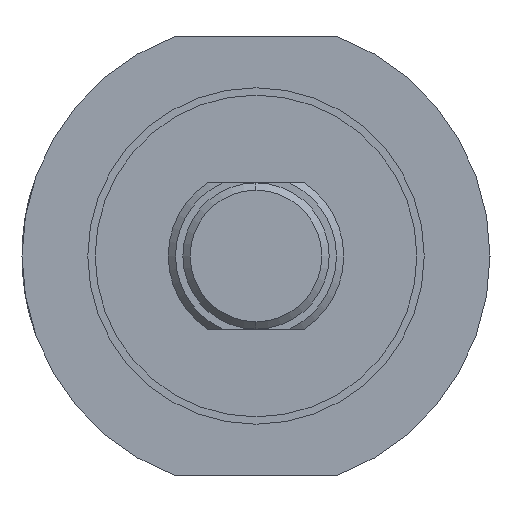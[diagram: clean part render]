
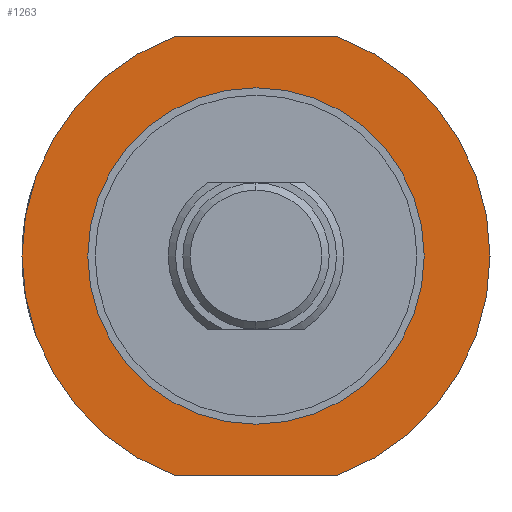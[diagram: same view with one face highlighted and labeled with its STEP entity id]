
A CAD part, left-side view. The second image highlights one B-rep face of the part: STEP entity #1263.
In plain terms, the highlighted planar face has unit normal (-1, 0, 0).
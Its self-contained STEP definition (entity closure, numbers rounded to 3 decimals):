
#38 = DIRECTION ( 'NONE',  ( 1., 0., 0. ) ) ;
#80 = CIRCLE ( 'NONE', #452, 11.5 ) ;
#100 = EDGE_LOOP ( 'NONE', ( #1032, #1646 ) ) ;
#116 = EDGE_LOOP ( 'NONE', ( #1025, #1285, #889, #665 ) ) ;
#121 = CARTESIAN_POINT ( 'NONE',  ( 42., -5.568, -15. ) ) ;
#127 = DIRECTION ( 'NONE',  ( -1., 0., 0. ) ) ;
#218 = EDGE_CURVE ( 'NONE', #664, #588, #1297, .T. ) ;
#236 = CARTESIAN_POINT ( 'NONE',  ( 42., 0., 0. ) ) ;
#241 = DIRECTION ( 'NONE',  ( 0., 0., 1. ) ) ;
#248 = VERTEX_POINT ( 'NONE', #856 ) ;
#267 = CARTESIAN_POINT ( 'NONE',  ( 42., 11.874, -15. ) ) ;
#316 = DIRECTION ( 'NONE',  ( 0., 1., 0. ) ) ;
#349 = FACE_OUTER_BOUND ( 'NONE', #116, .T. ) ;
#362 = EDGE_CURVE ( 'NONE', #1222, #626, #1407, .T. ) ;
#375 = CARTESIAN_POINT ( 'NONE',  ( 42., -5.568, 15. ) ) ;
#428 = CARTESIAN_POINT ( 'NONE',  ( 42., 0., 0. ) ) ;
#452 = AXIS2_PLACEMENT_3D ( 'NONE', #236, #1395, #1259 ) ;
#523 = DIRECTION ( 'NONE',  ( 0., -1., 0. ) ) ;
#552 = LINE ( 'NONE', #267, #696 ) ;
#573 = CARTESIAN_POINT ( 'NONE',  ( 42., 0., 11.5 ) ) ;
#588 = VERTEX_POINT ( 'NONE', #1686 ) ;
#626 = VERTEX_POINT ( 'NONE', #375 ) ;
#664 = VERTEX_POINT ( 'NONE', #573 ) ;
#665 = ORIENTED_EDGE ( 'NONE', *, *, #362, .F. ) ;
#696 = VECTOR ( 'NONE', #316, 1000. ) ;
#699 = CARTESIAN_POINT ( 'NONE',  ( 42., 11.874, 15. ) ) ;
#706 = CARTESIAN_POINT ( 'NONE',  ( 42., 0., -16. ) ) ;
#723 = CARTESIAN_POINT ( 'NONE',  ( 42., 0., 0. ) ) ;
#787 = PLANE ( 'NONE',  #1532 ) ;
#844 = AXIS2_PLACEMENT_3D ( 'NONE', #882, #127, #241 ) ;
#856 = CARTESIAN_POINT ( 'NONE',  ( 42., 5.568, -15. ) ) ;
#882 = CARTESIAN_POINT ( 'NONE',  ( 42., 0., 0. ) ) ;
#889 = ORIENTED_EDGE ( 'NONE', *, *, #1291, .T. ) ;
#929 = AXIS2_PLACEMENT_3D ( 'NONE', #723, #1577, #988 ) ;
#988 = DIRECTION ( 'NONE',  ( 0., 0., 1. ) ) ;
#1013 = AXIS2_PLACEMENT_3D ( 'NONE', #428, #1606, #1366 ) ;
#1025 = ORIENTED_EDGE ( 'NONE', *, *, #1372, .T. ) ;
#1032 = ORIENTED_EDGE ( 'NONE', *, *, #218, .F. ) ;
#1103 = VERTEX_POINT ( 'NONE', #121 ) ;
#1139 = DIRECTION ( 'NONE',  ( 0., 0., -1. ) ) ;
#1164 = CARTESIAN_POINT ( 'NONE',  ( 42., 5.568, 15. ) ) ;
#1179 = CIRCLE ( 'NONE', #844, 16. ) ;
#1222 = VERTEX_POINT ( 'NONE', #1164 ) ;
#1241 = CIRCLE ( 'NONE', #929, 16. ) ;
#1254 = VECTOR ( 'NONE', #523, 1000. ) ;
#1259 = DIRECTION ( 'NONE',  ( 0., 0., 1. ) ) ;
#1263 = ADVANCED_FACE ( 'NONE', ( #1667, #349 ), #787, .F. ) ;
#1285 = ORIENTED_EDGE ( 'NONE', *, *, #1568, .F. ) ;
#1291 = EDGE_CURVE ( 'NONE', #1103, #626, #1241, .T. ) ;
#1297 = CIRCLE ( 'NONE', #1013, 11.5 ) ;
#1366 = DIRECTION ( 'NONE',  ( 0., 0., 1. ) ) ;
#1372 = EDGE_CURVE ( 'NONE', #1222, #248, #1179, .T. ) ;
#1395 = DIRECTION ( 'NONE',  ( -1., 0., 0. ) ) ;
#1407 = LINE ( 'NONE', #699, #1254 ) ;
#1532 = AXIS2_PLACEMENT_3D ( 'NONE', #706, #38, #1139 ) ;
#1568 = EDGE_CURVE ( 'NONE', #1103, #248, #552, .T. ) ;
#1577 = DIRECTION ( 'NONE',  ( -1., 0., 0. ) ) ;
#1606 = DIRECTION ( 'NONE',  ( -1., 0., 0. ) ) ;
#1608 = EDGE_CURVE ( 'NONE', #588, #664, #80, .T. ) ;
#1646 = ORIENTED_EDGE ( 'NONE', *, *, #1608, .F. ) ;
#1667 = FACE_BOUND ( 'NONE', #100, .T. ) ;
#1686 = CARTESIAN_POINT ( 'NONE',  ( 42., 0., -11.5 ) ) ;
